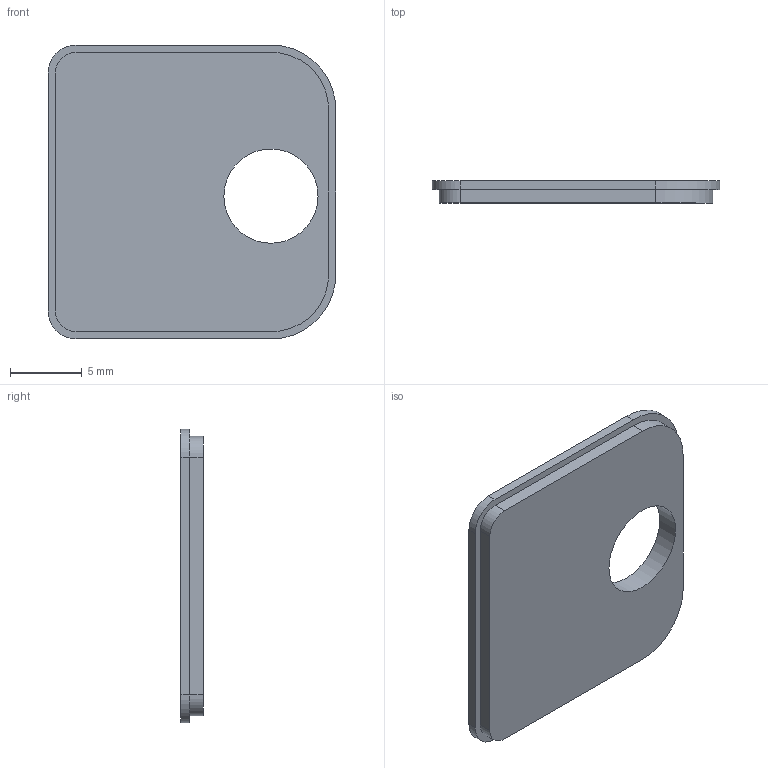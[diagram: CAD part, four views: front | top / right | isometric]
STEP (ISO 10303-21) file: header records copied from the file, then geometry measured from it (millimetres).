
FILE_DESCRIPTION(/* description */ ('STEP AP242 Edition 2','CAx-IF Rec.Pracs.---Representation and Presentation of Product Manufacturing Information (PMI)---4.0---2014-10-13','CAx-IF Rec.Pracs.---3D Tessellated Geometry---0.4---2014-09-14','2;1','CAx-IF Rec.Pracs.---User Defined Attributes---1.5---2016-08-15'),/* implementation_level */ '2;1');
FILE_NAME(/* name */ 'Assembly 1 - Part 9',/* time_stamp */ '2026-10-02T23:42:51Z',/* author */ (''),/* organization */ (''),/* preprocessor_version */ 'ST-DEVELOPER v20',/* originating_system */ 'ONSHAPE BY PTC INC, 1.221',/* authorisation */ ' ');
FILE_SCHEMA (('AP242_MANAGED_MODEL_BASED_3D_ENGINEERING_MIM_LF { 1 0 10303 442 3 1 4 }'));
Length unit declared in the file: metre
Products named in the file (1): Part 9
Bounding box: 20.02 x 1.56 x 20.45 mm (x, y, z)
Volume: 535.1 mm3; surface area: 877.4 mm2
Topology: 1 solids, 1 shells, 20 faces, 51 edges, 34 vertices
Faces by surface type: plane 11, cylinder 9
Full cylindrical faces by diameter (mm): 6.555 x1
Entity records: 634 total; most frequent: DIRECTION 110, CARTESIAN_POINT 105, ORIENTED_EDGE 100, EDGE_CURVE 50, AXIS2_PLACEMENT_3D 39, VERTEX_POINT 34, LINE 32, VECTOR 32
